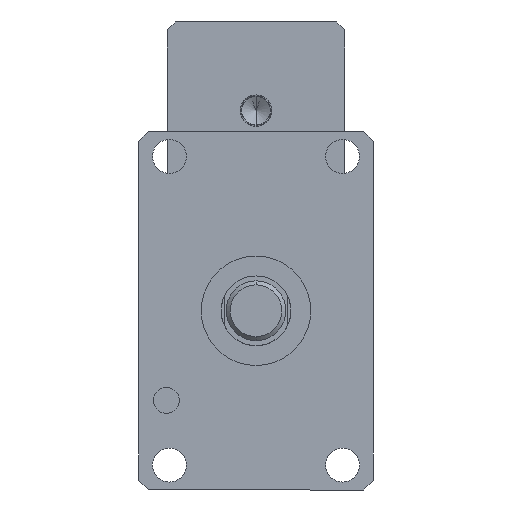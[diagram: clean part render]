
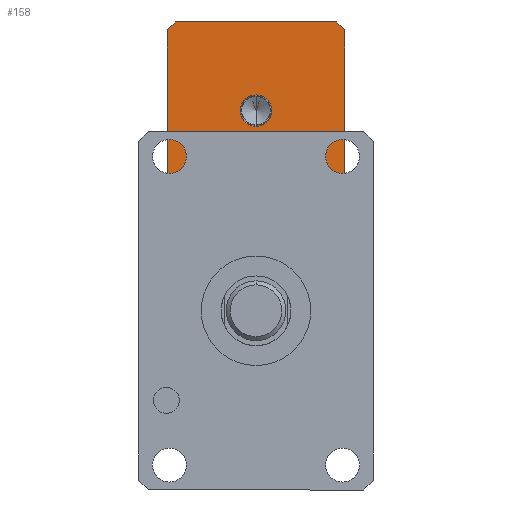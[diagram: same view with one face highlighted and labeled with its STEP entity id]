
A CAD part, front view. The second image highlights one B-rep face of the part: STEP entity #158.
In plain terms, the highlighted planar face has unit normal (0, -1, 0).
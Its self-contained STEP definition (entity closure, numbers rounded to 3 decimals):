
#50 = LINE ( 'NONE', #6260, #10102 ) ;
#158 = ADVANCED_FACE ( 'NONE', ( #3423, #10942 ), #3492, .F. ) ;
#342 = VECTOR ( 'NONE', #8701, 1000. ) ;
#430 = ORIENTED_EDGE ( 'NONE', *, *, #6682, .T. ) ;
#490 = CARTESIAN_POINT ( 'NONE',  ( -44.5, 160., 60. ) ) ;
#605 = CARTESIAN_POINT ( 'NONE',  ( 44.5, 160., 60. ) ) ;
#662 = DIRECTION ( 'NONE',  ( 0., -1., 0. ) ) ;
#1397 = ORIENTED_EDGE ( 'NONE', *, *, #7090, .T. ) ;
#1405 = DIRECTION ( 'NONE',  ( 0., 0., -1. ) ) ;
#1502 = ORIENTED_EDGE ( 'NONE', *, *, #7443, .T. ) ;
#1566 = CARTESIAN_POINT ( 'NONE',  ( 40.5, 160., 56. ) ) ;
#1858 = CARTESIAN_POINT ( 'NONE',  ( 44.5, 160., 56. ) ) ;
#2215 = CARTESIAN_POINT ( 'NONE',  ( -44.5, 160., 60. ) ) ;
#2299 = VERTEX_POINT ( 'NONE', #12020 ) ;
#2428 = LINE ( 'NONE', #6244, #4700 ) ;
#2475 = CARTESIAN_POINT ( 'NONE',  ( 40.5, 160., 145. ) ) ;
#2601 = CARTESIAN_POINT ( 'NONE',  ( 44.5, 160., 145. ) ) ;
#2724 = VERTEX_POINT ( 'NONE', #8779 ) ;
#3016 = DIRECTION ( 'NONE',  ( 0., 1., 0. ) ) ;
#3050 = DIRECTION ( 'NONE',  ( 0., 0., 1. ) ) ;
#3051 = VERTEX_POINT ( 'NONE', #2215 ) ;
#3115 = CARTESIAN_POINT ( 'NONE',  ( 0., 160., 100.5 ) ) ;
#3423 = FACE_BOUND ( 'NONE', #11330, .T. ) ;
#3441 = DIRECTION ( 'NONE',  ( -0.707, 0., 0.707 ) ) ;
#3465 = AXIS2_PLACEMENT_3D ( 'NONE', #6468, #662, #7467 ) ;
#3471 = ORIENTED_EDGE ( 'NONE', *, *, #7526, .F. ) ;
#3492 = PLANE ( 'NONE',  #12096 ) ;
#3573 = CIRCLE ( 'NONE', #6663, 7.903 ) ;
#3634 = LINE ( 'NONE', #7063, #8564 ) ;
#3645 = CIRCLE ( 'NONE', #3465, 7.903 ) ;
#3884 = ORIENTED_EDGE ( 'NONE', *, *, #6913, .T. ) ;
#4089 = DIRECTION ( 'NONE',  ( 0., 0., -1. ) ) ;
#4382 = CARTESIAN_POINT ( 'NONE',  ( -44.5, 160., 141. ) ) ;
#4427 = EDGE_LOOP ( 'NONE', ( #430, #3884, #1397, #8263, #5817, #1502, #3471, #11221 ) ) ;
#4464 = CARTESIAN_POINT ( 'NONE',  ( 44.5, 160., 141. ) ) ;
#4538 = VECTOR ( 'NONE', #9465, 1000. ) ;
#4700 = VECTOR ( 'NONE', #1405, 1000. ) ;
#5532 = CARTESIAN_POINT ( 'NONE',  ( 44.5, 160., 145. ) ) ;
#5619 = EDGE_CURVE ( 'NONE', #2299, #8299, #3573, .T. ) ;
#5817 = ORIENTED_EDGE ( 'NONE', *, *, #7369, .F. ) ;
#6114 = VERTEX_POINT ( 'NONE', #11940 ) ;
#6136 = CARTESIAN_POINT ( 'NONE',  ( -40.5, 160., 145. ) ) ;
#6244 = CARTESIAN_POINT ( 'NONE',  ( 44.5, 160., 145. ) ) ;
#6260 = CARTESIAN_POINT ( 'NONE',  ( -44.5, 160., 145. ) ) ;
#6410 = LINE ( 'NONE', #2475, #8712 ) ;
#6468 = CARTESIAN_POINT ( 'NONE',  ( 0., 160., 100.5 ) ) ;
#6663 = AXIS2_PLACEMENT_3D ( 'NONE', #3115, #9981, #4089 ) ;
#6682 = EDGE_CURVE ( 'NONE', #11164, #3051, #50, .T. ) ;
#6777 = EDGE_CURVE ( 'NONE', #8299, #2299, #3645, .T. ) ;
#6913 = EDGE_CURVE ( 'NONE', #3051, #6114, #7360, .T. ) ;
#7037 = VERTEX_POINT ( 'NONE', #4464 ) ;
#7063 = CARTESIAN_POINT ( 'NONE',  ( 44.5, 160., 60. ) ) ;
#7090 = EDGE_CURVE ( 'NONE', #6114, #10517, #7798, .T. ) ;
#7175 = LINE ( 'NONE', #2601, #4538 ) ;
#7264 = EDGE_CURVE ( 'NONE', #10517, #11212, #3634, .T. ) ;
#7284 = CARTESIAN_POINT ( 'NONE',  ( 0., 160., 92.597 ) ) ;
#7290 = DIRECTION ( 'NONE',  ( 0.707, 0., -0.707 ) ) ;
#7360 = LINE ( 'NONE', #490, #9936 ) ;
#7369 = EDGE_CURVE ( 'NONE', #7037, #11212, #2428, .T. ) ;
#7443 = EDGE_CURVE ( 'NONE', #7037, #2724, #6410, .T. ) ;
#7467 = DIRECTION ( 'NONE',  ( 0., 0., -1. ) ) ;
#7526 = EDGE_CURVE ( 'NONE', #10675, #2724, #7175, .T. ) ;
#7604 = EDGE_CURVE ( 'NONE', #10675, #11164, #11158, .T. ) ;
#7798 = LINE ( 'NONE', #1858, #342 ) ;
#8118 = DIRECTION ( 'NONE',  ( -0.707, 0., -0.707 ) ) ;
#8263 = ORIENTED_EDGE ( 'NONE', *, *, #7264, .T. ) ;
#8299 = VERTEX_POINT ( 'NONE', #7284 ) ;
#8396 = ORIENTED_EDGE ( 'NONE', *, *, #6777, .F. ) ;
#8564 = VECTOR ( 'NONE', #11961, 1000. ) ;
#8671 = CARTESIAN_POINT ( 'NONE',  ( -40.5, 160., 145. ) ) ;
#8701 = DIRECTION ( 'NONE',  ( 1., 0., 0. ) ) ;
#8712 = VECTOR ( 'NONE', #3441, 1000. ) ;
#8779 = CARTESIAN_POINT ( 'NONE',  ( 40.5, 160., 145. ) ) ;
#9226 = DIRECTION ( 'NONE',  ( 0., 0., -1. ) ) ;
#9465 = DIRECTION ( 'NONE',  ( 1., 0., 0. ) ) ;
#9936 = VECTOR ( 'NONE', #7290, 1000. ) ;
#9981 = DIRECTION ( 'NONE',  ( 0., -1., 0. ) ) ;
#10102 = VECTOR ( 'NONE', #9226, 1000. ) ;
#10501 = ORIENTED_EDGE ( 'NONE', *, *, #5619, .F. ) ;
#10517 = VERTEX_POINT ( 'NONE', #1566 ) ;
#10675 = VERTEX_POINT ( 'NONE', #8671 ) ;
#10942 = FACE_OUTER_BOUND ( 'NONE', #4427, .T. ) ;
#11158 = LINE ( 'NONE', #6136, #11470 ) ;
#11164 = VERTEX_POINT ( 'NONE', #4382 ) ;
#11212 = VERTEX_POINT ( 'NONE', #605 ) ;
#11221 = ORIENTED_EDGE ( 'NONE', *, *, #7604, .T. ) ;
#11330 = EDGE_LOOP ( 'NONE', ( #8396, #10501 ) ) ;
#11470 = VECTOR ( 'NONE', #8118, 1000. ) ;
#11940 = CARTESIAN_POINT ( 'NONE',  ( -40.5, 160., 56. ) ) ;
#11961 = DIRECTION ( 'NONE',  ( 0.707, 0., 0.707 ) ) ;
#12020 = CARTESIAN_POINT ( 'NONE',  ( 0., 160., 108.403 ) ) ;
#12096 = AXIS2_PLACEMENT_3D ( 'NONE', #5532, #3016, #3050 ) ;
